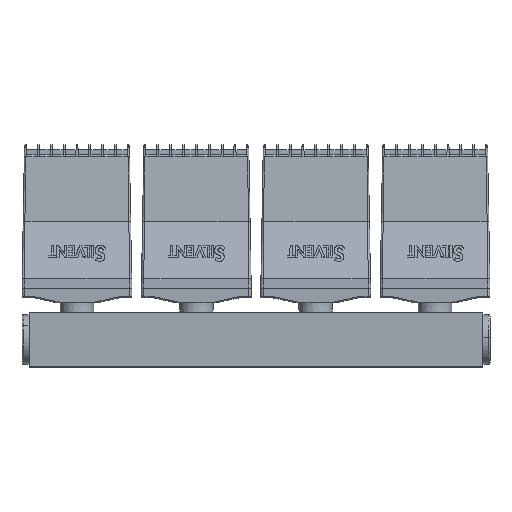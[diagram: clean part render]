
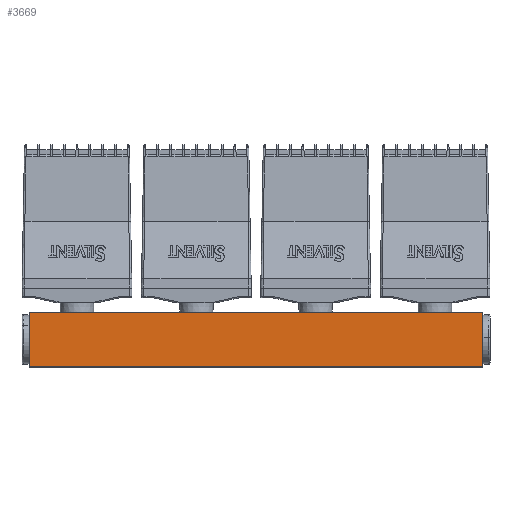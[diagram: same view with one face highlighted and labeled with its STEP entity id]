
A CAD part, top view. The second image highlights one B-rep face of the part: STEP entity #3669.
In plain terms, the highlighted planar face has unit normal (0, 0, 1).
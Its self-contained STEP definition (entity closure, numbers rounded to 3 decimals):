
#3513 = EDGE_CURVE ( 'NONE', #3553, #3554, #12620, .T. ) ;
#3553 = VERTEX_POINT ( 'NONE', #12657 ) ;
#3554 = VERTEX_POINT ( 'NONE', #12655 ) ;
#3569 = EDGE_CURVE ( 'NONE', #3570, #3571, #12756, .T. ) ;
#3570 = VERTEX_POINT ( 'NONE', #12749 ) ;
#3571 = VERTEX_POINT ( 'NONE', #12747 ) ;
#3669 = ADVANCED_FACE ( 'NONE', ( #13767 ), #13887, .F. ) ;
#3670 = EDGE_LOOP ( 'NONE', ( #3671, #3672, #3674, #3675 ) ) ;
#3671 = ORIENTED_EDGE ( 'NONE', *, *, #3569, .T. ) ;
#3672 = ORIENTED_EDGE ( 'NONE', *, *, #3673, .F. ) ;
#3673 = EDGE_CURVE ( 'NONE', #3554, #3571, #13877, .T. ) ;
#3674 = ORIENTED_EDGE ( 'NONE', *, *, #3513, .F. ) ;
#3675 = ORIENTED_EDGE ( 'NONE', *, *, #3676, .T. ) ;
#3676 = EDGE_CURVE ( 'NONE', #3553, #3570, #13867, .T. ) ;
#12614 = DIRECTION ( 'NONE',  ( 0., -1., 0. ) ) ;
#12616 = VECTOR ( 'NONE', #12614, 1000. ) ;
#12618 = CARTESIAN_POINT ( 'NONE',  ( 95., 0., 0. ) ) ;
#12620 = LINE ( 'NONE', #12618, #12616 ) ;
#12655 = CARTESIAN_POINT ( 'NONE',  ( 95., 0., 0. ) ) ;
#12657 = CARTESIAN_POINT ( 'NONE',  ( 95., 23., 0. ) ) ;
#12747 = CARTESIAN_POINT ( 'NONE',  ( -95., 0., 0. ) ) ;
#12749 = CARTESIAN_POINT ( 'NONE',  ( -95., 23., 0. ) ) ;
#12752 = DIRECTION ( 'NONE',  ( 0., -1., 0. ) ) ;
#12753 = VECTOR ( 'NONE', #12752, 1000. ) ;
#12755 = CARTESIAN_POINT ( 'NONE',  ( -95., 0., 0. ) ) ;
#12756 = LINE ( 'NONE', #12755, #12753 ) ;
#13767 = FACE_OUTER_BOUND ( 'NONE', #3670, .T. ) ;
#13864 = DIRECTION ( 'NONE',  ( -1., 0., 0. ) ) ;
#13865 = VECTOR ( 'NONE', #13864, 1000. ) ;
#13866 = CARTESIAN_POINT ( 'NONE',  ( 95., 23., 0. ) ) ;
#13867 = LINE ( 'NONE', #13866, #13865 ) ;
#13871 = DIRECTION ( 'NONE',  ( -1., 0., 0. ) ) ;
#13873 = VECTOR ( 'NONE', #13871, 1000. ) ;
#13875 = CARTESIAN_POINT ( 'NONE',  ( 95., 0., 0. ) ) ;
#13877 = LINE ( 'NONE', #13875, #13873 ) ;
#13878 = DIRECTION ( 'NONE',  ( -1., 0., 0. ) ) ;
#13879 = DIRECTION ( 'NONE',  ( 0., 0., -1. ) ) ;
#13881 = CARTESIAN_POINT ( 'NONE',  ( 95., 0., 0. ) ) ;
#13883 = AXIS2_PLACEMENT_3D ( 'NONE', #13881, #13879, #13878 ) ;
#13887 = PLANE ( 'NONE',  #13883 ) ;
